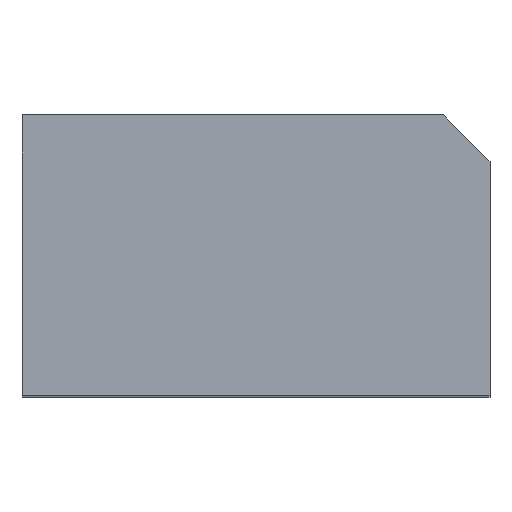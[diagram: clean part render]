
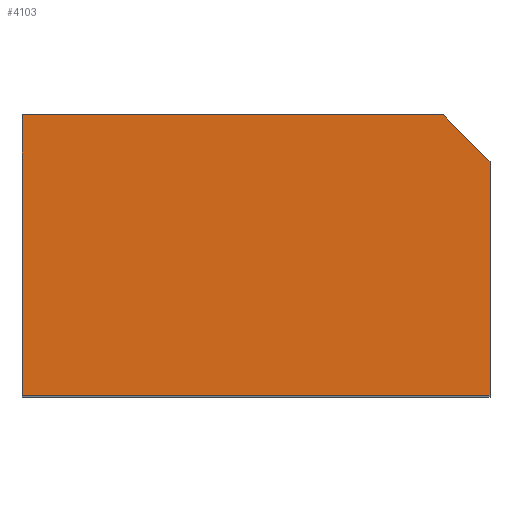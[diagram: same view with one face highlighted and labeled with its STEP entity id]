
A CAD part, top view. The second image highlights one B-rep face of the part: STEP entity #4103.
In plain terms, the highlighted planar face has unit normal (0, 0, 1).
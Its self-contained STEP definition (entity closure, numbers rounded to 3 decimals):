
#45 = CARTESIAN_POINT ( 'NONE',  ( -14.95, 8.96, 30.11 ) ) ;
#253 = CARTESIAN_POINT ( 'NONE',  ( -14.95, -8.96, 30.11 ) ) ;
#337 = CARTESIAN_POINT ( 'NONE',  ( 10.455, 10.455, 30.11 ) ) ;
#429 = LINE ( 'NONE', #1783, #5926 ) ;
#541 = LINE ( 'NONE', #2406, #3865 ) ;
#549 = EDGE_CURVE ( 'NONE', #4710, #2976, #541, .T. ) ;
#714 = CARTESIAN_POINT ( 'NONE',  ( 11.95, 8.96, 30.11 ) ) ;
#895 = FACE_OUTER_BOUND ( 'NONE', #3359, .T. ) ;
#1070 = EDGE_CURVE ( 'NONE', #3874, #4411, #5070, .T. ) ;
#1346 = CARTESIAN_POINT ( 'NONE',  ( 0., 0., 30.11 ) ) ;
#1360 = ORIENTED_EDGE ( 'NONE', *, *, #549, .T. ) ;
#1648 = AXIS2_PLACEMENT_3D ( 'NONE', #1346, #1811, #5911 ) ;
#1671 = VERTEX_POINT ( 'NONE', #2707 ) ;
#1783 = CARTESIAN_POINT ( 'NONE',  ( -14.95, 8.96, 30.11 ) ) ;
#1811 = DIRECTION ( 'NONE',  ( 0., 0., 1. ) ) ;
#2008 = DIRECTION ( 'NONE',  ( 1., 0., 0. ) ) ;
#2168 = CARTESIAN_POINT ( 'NONE',  ( 14.95, -8.96, 30.11 ) ) ;
#2248 = DIRECTION ( 'NONE',  ( -1., 0., 0. ) ) ;
#2406 = CARTESIAN_POINT ( 'NONE',  ( -14.95, -8.96, 30.11 ) ) ;
#2619 = VECTOR ( 'NONE', #4602, 1000. ) ;
#2634 = PLANE ( 'NONE',  #1648 ) ;
#2707 = CARTESIAN_POINT ( 'NONE',  ( 14.95, 5.96, 30.11 ) ) ;
#2976 = VERTEX_POINT ( 'NONE', #2168 ) ;
#3359 = EDGE_LOOP ( 'NONE', ( #3699, #4797, #4667, #5498, #1360 ) ) ;
#3568 = LINE ( 'NONE', #337, #4758 ) ;
#3699 = ORIENTED_EDGE ( 'NONE', *, *, #5936, .T. ) ;
#3865 = VECTOR ( 'NONE', #2008, 1000. ) ;
#3874 = VERTEX_POINT ( 'NONE', #714 ) ;
#4054 = EDGE_CURVE ( 'NONE', #4411, #4710, #429, .T. ) ;
#4103 = ADVANCED_FACE ( 'NONE', ( #895 ), #2634, .T. ) ;
#4117 = LINE ( 'NONE', #4577, #2619 ) ;
#4411 = VERTEX_POINT ( 'NONE', #4876 ) ;
#4453 = DIRECTION ( 'NONE',  ( -0.707, 0.707, 0. ) ) ;
#4577 = CARTESIAN_POINT ( 'NONE',  ( 14.95, 8.96, 30.11 ) ) ;
#4602 = DIRECTION ( 'NONE',  ( 0., 1., 0. ) ) ;
#4667 = ORIENTED_EDGE ( 'NONE', *, *, #1070, .T. ) ;
#4710 = VERTEX_POINT ( 'NONE', #253 ) ;
#4734 = EDGE_CURVE ( 'NONE', #1671, #3874, #3568, .T. ) ;
#4758 = VECTOR ( 'NONE', #4453, 1000. ) ;
#4797 = ORIENTED_EDGE ( 'NONE', *, *, #4734, .T. ) ;
#4876 = CARTESIAN_POINT ( 'NONE',  ( -14.95, 8.96, 30.11 ) ) ;
#4939 = DIRECTION ( 'NONE',  ( 0., -1., 0. ) ) ;
#5070 = LINE ( 'NONE', #45, #5520 ) ;
#5498 = ORIENTED_EDGE ( 'NONE', *, *, #4054, .T. ) ;
#5520 = VECTOR ( 'NONE', #2248, 1000. ) ;
#5911 = DIRECTION ( 'NONE',  ( 1., 0., 0. ) ) ;
#5926 = VECTOR ( 'NONE', #4939, 1000. ) ;
#5936 = EDGE_CURVE ( 'NONE', #2976, #1671, #4117, .T. ) ;
